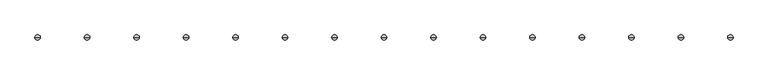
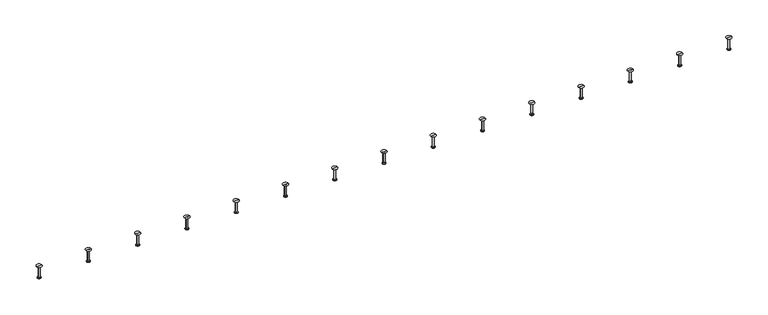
"""IFC4 building model written with IfcOpenShell, lengths in millimetres: fastener geometry, JTA-K JORDAHL® AnchorChannels : JTA-K L=6000 mm."""

from ifc_helpers import new_model, si_unit, frame, origin, place, context, project, spatial, polyline, circle_curve, source, transform, mapped, element, save
from ifc_brep_helpers import plane_surface, cylinder_surface, revolved_surface, advanced_brep


def fastener_3531c618(model_context):
    return source(origin(), model_context, "Body", "AdvancedBrep", [
        advanced_brep(
        [(3991.6666667, 0.0, -17.0), (4005.1666667, 0.0, -17.0), (3978.1666667, 0.0, -17.0), (3983.1666667, 0.0, -80.0), (4000.1666667, 0.0, -80.0), (3991.6666667, 0.0, -80.0), (3983.1666667, 0.0, -78.0), (4000.1666667, 0.0, -78.0), (3987.1666667, 0.0, -75.6905989), (3996.1666667, 0.0, -75.6905989), (3987.1666667, 0.0, -19.5), (3996.1666667, 0.0, -19.5)],
        [
            (0, 1),
            (1, 2, circle_curve(frame((3991.6666667, 0.0, -17.0), z_axis=(0.0, 0.0, 1.0), x_axis=(1.0, 0.0, 0.0)), 13.5)),
            (2, 0),
            (2, 1, circle_curve(frame((3991.6666667, 0.0, -17.0), z_axis=(0.0, 0.0, 1.0), x_axis=(1.0, 0.0, 0.0)), 13.5)),
            (3, 4, circle_curve(frame((3991.6666667, 0.0, -80.0), z_axis=(0.0, 0.0, -1.0), x_axis=(1.0, 0.0, 0.0)), 8.5)),
            (4, 5),
            (5, 3),
            (4, 3, circle_curve(frame((3991.6666667, 0.0, -80.0), z_axis=(0.0, 0.0, -1.0), x_axis=(1.0, 0.0, 0.0)), 8.5)),
            (6, 7, circle_curve(frame((3991.6666667, 0.0, -78.0), z_axis=(0.0, 0.0, -1.0), x_axis=(1.0, 0.0, 0.0)), 8.5)),
            (7, 4),
            (3, 6),
            (7, 6, circle_curve(frame((3991.6666667, 0.0, -78.0), z_axis=(0.0, 0.0, -1.0), x_axis=(1.0, 0.0, 0.0)), 8.5)),
            (8, 9, circle_curve(frame((3991.6666667, 0.0, -75.6905989), z_axis=(0.0, 0.0, -1.0), x_axis=(1.0, 0.0, 0.0)), 4.5)),
            (9, 7),
            (6, 8),
            (9, 8, circle_curve(frame((3991.6666667, 0.0, -75.6905989), z_axis=(0.0, 0.0, -1.0), x_axis=(1.0, 0.0, 0.0)), 4.5)),
            (10, 11, circle_curve(frame((3991.6666667, 0.0, -19.5), z_axis=(0.0, 0.0, -1.0), x_axis=(1.0, 0.0, 0.0)), 4.5)),
            (11, 9),
            (8, 10),
            (11, 10, circle_curve(frame((3991.6666667, 0.0, -19.5), z_axis=(0.0, 0.0, -1.0), x_axis=(1.0, 0.0, 0.0)), 4.5)),
            (1, 11),
            (10, 2),
        ],
        [
            plane_surface(frame((3991.6666667, 0.0, -17.0), z_axis=(0.0, 0.0, 1.0), x_axis=(1.0, 0.0, 0.0))),
            plane_surface(frame((3991.6666667, 0.0, -80.0), z_axis=(0.0, 0.0, -1.0), x_axis=(1.0, 0.0, 0.0))),
            cylinder_surface(frame((3991.6666667, 0.0, 2277.3150031), z_axis=(0.0, 0.0, 1.0), x_axis=(1.0, 0.0, 0.0)), 8.5),
            revolved_surface(polyline([(4000.1666667, 0.0, -78.0), (3996.1666667, 0.0, -75.6905989)]), (3991.6666667, 0.0, 2277.3150031), (0.0, 0.0, 1.0)),
            cylinder_surface(frame((3991.6666667, 0.0, 2277.3150031), z_axis=(0.0, 0.0, 1.0), x_axis=(1.0, 0.0, 0.0)), 4.5),
            revolved_surface(polyline([(3996.1666667, 0.0, -19.5), (4005.1666667, 0.0, -17.0)]), (3991.6666667, 0.0, 2277.3150031), (0.0, 0.0, 1.0)),
        ],
        [
            (0, [[1, 2, 3]]),
            (0, [[-3, 4, -1]]),
            (1, [[5, 6, 7]]),
            (1, [[8, -7, -6]]),
            (2, [[9, 10, -5, 11]]),
            (2, [[12, -11, -8, -10]]),
            (3, [[13, 14, -9, 15]]),
            (3, [[16, -15, -12, -14]]),
            (4, [[17, 18, -13, 19]]),
            (4, [[20, -19, -16, -18]]),
            (5, [[-2, 21, -17, 22]]),
            (5, [[-4, -22, -20, -21]]),
        ],
    ),
        advanced_brep(
        [(3743.75, 0.0, -17.0), (3757.25, 0.0, -17.0), (3730.25, 0.0, -17.0), (3735.25, 0.0, -80.0), (3752.25, 0.0, -80.0), (3743.75, 0.0, -80.0), (3735.25, 0.0, -78.0), (3752.25, 0.0, -78.0), (3739.25, 0.0, -75.6905989), (3748.25, 0.0, -75.6905989), (3739.25, 0.0, -19.5), (3748.25, 0.0, -19.5)],
        [
            (0, 1),
            (1, 2, circle_curve(frame((3743.75, 0.0, -17.0), z_axis=(0.0, 0.0, 1.0), x_axis=(1.0, 0.0, 0.0)), 13.5)),
            (2, 0),
            (2, 1, circle_curve(frame((3743.75, 0.0, -17.0), z_axis=(0.0, 0.0, 1.0), x_axis=(1.0, 0.0, 0.0)), 13.5)),
            (3, 4, circle_curve(frame((3743.75, 0.0, -80.0), z_axis=(0.0, 0.0, -1.0), x_axis=(1.0, 0.0, 0.0)), 8.5)),
            (4, 5),
            (5, 3),
            (4, 3, circle_curve(frame((3743.75, 0.0, -80.0), z_axis=(0.0, 0.0, -1.0), x_axis=(1.0, 0.0, 0.0)), 8.5)),
            (6, 7, circle_curve(frame((3743.75, 0.0, -78.0), z_axis=(0.0, 0.0, -1.0), x_axis=(1.0, 0.0, 0.0)), 8.5)),
            (7, 4),
            (3, 6),
            (7, 6, circle_curve(frame((3743.75, 0.0, -78.0), z_axis=(0.0, 0.0, -1.0), x_axis=(1.0, 0.0, 0.0)), 8.5)),
            (8, 9, circle_curve(frame((3743.75, 0.0, -75.6905989), z_axis=(0.0, 0.0, -1.0), x_axis=(1.0, 0.0, 0.0)), 4.5)),
            (9, 7),
            (6, 8),
            (9, 8, circle_curve(frame((3743.75, 0.0, -75.6905989), z_axis=(0.0, 0.0, -1.0), x_axis=(1.0, 0.0, 0.0)), 4.5)),
            (10, 11, circle_curve(frame((3743.75, 0.0, -19.5), z_axis=(0.0, 0.0, -1.0), x_axis=(1.0, 0.0, 0.0)), 4.5)),
            (11, 9),
            (8, 10),
            (11, 10, circle_curve(frame((3743.75, 0.0, -19.5), z_axis=(0.0, 0.0, -1.0), x_axis=(1.0, 0.0, 0.0)), 4.5)),
            (1, 11),
            (10, 2),
        ],
        [
            plane_surface(frame((3743.75, 0.0, -17.0), z_axis=(0.0, 0.0, 1.0), x_axis=(1.0, 0.0, 0.0))),
            plane_surface(frame((3743.75, 0.0, -80.0), z_axis=(0.0, 0.0, -1.0), x_axis=(1.0, 0.0, 0.0))),
            cylinder_surface(frame((3743.75, 0.0, 2277.3150031), z_axis=(0.0, 0.0, 1.0), x_axis=(1.0, 0.0, 0.0)), 8.5),
            revolved_surface(polyline([(3752.25, 0.0, -78.0), (3748.25, 0.0, -75.6905989)]), (3743.75, 0.0, 2277.3150031), (0.0, 0.0, 1.0)),
            cylinder_surface(frame((3743.75, 0.0, 2277.3150031), z_axis=(0.0, 0.0, 1.0), x_axis=(1.0, 0.0, 0.0)), 4.5),
            revolved_surface(polyline([(3748.25, 0.0, -19.5), (3757.25, 0.0, -17.0)]), (3743.75, 0.0, 2277.3150031), (0.0, 0.0, 1.0)),
        ],
        [
            (0, [[1, 2, 3]]),
            (0, [[-3, 4, -1]]),
            (1, [[5, 6, 7]]),
            (1, [[8, -7, -6]]),
            (2, [[9, 10, -5, 11]]),
            (2, [[12, -11, -8, -10]]),
            (3, [[13, 14, -9, 15]]),
            (3, [[16, -15, -12, -14]]),
            (4, [[17, 18, -13, 19]]),
            (4, [[20, -19, -16, -18]]),
            (5, [[-2, 21, -17, 22]]),
            (5, [[-4, -22, -20, -21]]),
        ],
    ),
        advanced_brep(
        [(3495.8333333, 0.0, -17.0), (3509.3333333, 0.0, -17.0), (3482.3333333, 0.0, -17.0), (3487.3333333, 0.0, -80.0), (3504.3333333, 0.0, -80.0), (3495.8333333, 0.0, -80.0), (3487.3333333, 0.0, -78.0), (3504.3333333, 0.0, -78.0), (3491.3333333, 0.0, -75.6905989), (3500.3333333, 0.0, -75.6905989), (3491.3333333, 0.0, -19.5), (3500.3333333, 0.0, -19.5)],
        [
            (0, 1),
            (1, 2, circle_curve(frame((3495.8333333, 0.0, -17.0), z_axis=(0.0, 0.0, 1.0), x_axis=(1.0, 0.0, 0.0)), 13.5)),
            (2, 0),
            (2, 1, circle_curve(frame((3495.8333333, 0.0, -17.0), z_axis=(0.0, 0.0, 1.0), x_axis=(1.0, 0.0, 0.0)), 13.5)),
            (3, 4, circle_curve(frame((3495.8333333, 0.0, -80.0), z_axis=(0.0, 0.0, -1.0), x_axis=(1.0, 0.0, 0.0)), 8.5)),
            (4, 5),
            (5, 3),
            (4, 3, circle_curve(frame((3495.8333333, 0.0, -80.0), z_axis=(0.0, 0.0, -1.0), x_axis=(1.0, 0.0, 0.0)), 8.5)),
            (6, 7, circle_curve(frame((3495.8333333, 0.0, -78.0), z_axis=(0.0, 0.0, -1.0), x_axis=(1.0, 0.0, 0.0)), 8.5)),
            (7, 4),
            (3, 6),
            (7, 6, circle_curve(frame((3495.8333333, 0.0, -78.0), z_axis=(0.0, 0.0, -1.0), x_axis=(1.0, 0.0, 0.0)), 8.5)),
            (8, 9, circle_curve(frame((3495.8333333, 0.0, -75.6905989), z_axis=(0.0, 0.0, -1.0), x_axis=(1.0, 0.0, 0.0)), 4.5)),
            (9, 7),
            (6, 8),
            (9, 8, circle_curve(frame((3495.8333333, 0.0, -75.6905989), z_axis=(0.0, 0.0, -1.0), x_axis=(1.0, 0.0, 0.0)), 4.5)),
            (10, 11, circle_curve(frame((3495.8333333, 0.0, -19.5), z_axis=(0.0, 0.0, -1.0), x_axis=(1.0, 0.0, 0.0)), 4.5)),
            (11, 9),
            (8, 10),
            (11, 10, circle_curve(frame((3495.8333333, 0.0, -19.5), z_axis=(0.0, 0.0, -1.0), x_axis=(1.0, 0.0, 0.0)), 4.5)),
            (1, 11),
            (10, 2),
        ],
        [
            plane_surface(frame((3495.8333333, 0.0, -17.0), z_axis=(0.0, 0.0, 1.0), x_axis=(1.0, 0.0, 0.0))),
            plane_surface(frame((3495.8333333, 0.0, -80.0), z_axis=(0.0, 0.0, -1.0), x_axis=(1.0, 0.0, 0.0))),
            cylinder_surface(frame((3495.8333333, 0.0, 2277.3150031), z_axis=(0.0, 0.0, 1.0), x_axis=(1.0, 0.0, 0.0)), 8.5),
            revolved_surface(polyline([(3504.3333333, 0.0, -78.0), (3500.3333333, 0.0, -75.6905989)]), (3495.8333333, 0.0, 2277.3150031), (0.0, 0.0, 1.0)),
            cylinder_surface(frame((3495.8333333, 0.0, 2277.3150031), z_axis=(0.0, 0.0, 1.0), x_axis=(1.0, 0.0, 0.0)), 4.5),
            revolved_surface(polyline([(3500.3333333, 0.0, -19.5), (3509.3333333, 0.0, -17.0)]), (3495.8333333, 0.0, 2277.3150031), (0.0, 0.0, 1.0)),
        ],
        [
            (0, [[1, 2, 3]]),
            (0, [[-3, 4, -1]]),
            (1, [[5, 6, 7]]),
            (1, [[8, -7, -6]]),
            (2, [[9, 10, -5, 11]]),
            (2, [[12, -11, -8, -10]]),
            (3, [[13, 14, -9, 15]]),
            (3, [[16, -15, -12, -14]]),
            (4, [[17, 18, -13, 19]]),
            (4, [[20, -19, -16, -18]]),
            (5, [[-2, 21, -17, 22]]),
            (5, [[-4, -22, -20, -21]]),
        ],
    ),
        advanced_brep(
        [(3247.9166667, 0.0, -17.0), (3261.4166667, 0.0, -17.0), (3234.4166667, 0.0, -17.0), (3239.4166667, 0.0, -80.0), (3256.4166667, 0.0, -80.0), (3247.9166667, 0.0, -80.0), (3239.4166667, 0.0, -78.0), (3256.4166667, 0.0, -78.0), (3243.4166667, 0.0, -75.6905989), (3252.4166667, 0.0, -75.6905989), (3243.4166667, 0.0, -19.5), (3252.4166667, 0.0, -19.5)],
        [
            (0, 1),
            (1, 2, circle_curve(frame((3247.9166667, 0.0, -17.0), z_axis=(0.0, 0.0, 1.0), x_axis=(1.0, 0.0, 0.0)), 13.5)),
            (2, 0),
            (2, 1, circle_curve(frame((3247.9166667, 0.0, -17.0), z_axis=(0.0, 0.0, 1.0), x_axis=(1.0, 0.0, 0.0)), 13.5)),
            (3, 4, circle_curve(frame((3247.9166667, 0.0, -80.0), z_axis=(0.0, 0.0, -1.0), x_axis=(1.0, 0.0, 0.0)), 8.5)),
            (4, 5),
            (5, 3),
            (4, 3, circle_curve(frame((3247.9166667, 0.0, -80.0), z_axis=(0.0, 0.0, -1.0), x_axis=(1.0, 0.0, 0.0)), 8.5)),
            (6, 7, circle_curve(frame((3247.9166667, 0.0, -78.0), z_axis=(0.0, 0.0, -1.0), x_axis=(1.0, 0.0, 0.0)), 8.5)),
            (7, 4),
            (3, 6),
            (7, 6, circle_curve(frame((3247.9166667, 0.0, -78.0), z_axis=(0.0, 0.0, -1.0), x_axis=(1.0, 0.0, 0.0)), 8.5)),
            (8, 9, circle_curve(frame((3247.9166667, 0.0, -75.6905989), z_axis=(0.0, 0.0, -1.0), x_axis=(1.0, 0.0, 0.0)), 4.5)),
            (9, 7),
            (6, 8),
            (9, 8, circle_curve(frame((3247.9166667, 0.0, -75.6905989), z_axis=(0.0, 0.0, -1.0), x_axis=(1.0, 0.0, 0.0)), 4.5)),
            (10, 11, circle_curve(frame((3247.9166667, 0.0, -19.5), z_axis=(0.0, 0.0, -1.0), x_axis=(1.0, 0.0, 0.0)), 4.5)),
            (11, 9),
            (8, 10),
            (11, 10, circle_curve(frame((3247.9166667, 0.0, -19.5), z_axis=(0.0, 0.0, -1.0), x_axis=(1.0, 0.0, 0.0)), 4.5)),
            (1, 11),
            (10, 2),
        ],
        [
            plane_surface(frame((3247.9166667, 0.0, -17.0), z_axis=(0.0, 0.0, 1.0), x_axis=(1.0, 0.0, 0.0))),
            plane_surface(frame((3247.9166667, 0.0, -80.0), z_axis=(0.0, 0.0, -1.0), x_axis=(1.0, 0.0, 0.0))),
            cylinder_surface(frame((3247.9166667, 0.0, 2277.3150031), z_axis=(0.0, 0.0, 1.0), x_axis=(1.0, 0.0, 0.0)), 8.5),
            revolved_surface(polyline([(3256.4166667, 0.0, -78.0), (3252.4166667, 0.0, -75.6905989)]), (3247.9166667, 0.0, 2277.3150031), (0.0, 0.0, 1.0)),
            cylinder_surface(frame((3247.9166667, 0.0, 2277.3150031), z_axis=(0.0, 0.0, 1.0), x_axis=(1.0, 0.0, 0.0)), 4.5),
            revolved_surface(polyline([(3252.4166667, 0.0, -19.5), (3261.4166667, 0.0, -17.0)]), (3247.9166667, 0.0, 2277.3150031), (0.0, 0.0, 1.0)),
        ],
        [
            (0, [[1, 2, 3]]),
            (0, [[-3, 4, -1]]),
            (1, [[5, 6, 7]]),
            (1, [[8, -7, -6]]),
            (2, [[9, 10, -5, 11]]),
            (2, [[12, -11, -8, -10]]),
            (3, [[13, 14, -9, 15]]),
            (3, [[16, -15, -12, -14]]),
            (4, [[17, 18, -13, 19]]),
            (4, [[20, -19, -16, -18]]),
            (5, [[-2, 21, -17, 22]]),
            (5, [[-4, -22, -20, -21]]),
        ],
    ),
        advanced_brep(
        [(3000.0, 0.0, -17.0), (3013.5, 0.0, -17.0), (2986.5, 0.0, -17.0), (2991.5, 0.0, -80.0), (3008.5, 0.0, -80.0), (3000.0, 0.0, -80.0), (2991.5, 0.0, -78.0), (3008.5, 0.0, -78.0), (2995.5, 0.0, -75.6905989), (3004.5, 0.0, -75.6905989), (2995.5, 0.0, -19.5), (3004.5, 0.0, -19.5)],
        [
            (0, 1),
            (1, 2, circle_curve(frame((3000.0, 0.0, -17.0), z_axis=(0.0, 0.0, 1.0), x_axis=(1.0, 0.0, 0.0)), 13.5)),
            (2, 0),
            (2, 1, circle_curve(frame((3000.0, 0.0, -17.0), z_axis=(0.0, 0.0, 1.0), x_axis=(1.0, 0.0, 0.0)), 13.5)),
            (3, 4, circle_curve(frame((3000.0, 0.0, -80.0), z_axis=(0.0, 0.0, -1.0), x_axis=(1.0, 0.0, 0.0)), 8.5)),
            (4, 5),
            (5, 3),
            (4, 3, circle_curve(frame((3000.0, 0.0, -80.0), z_axis=(0.0, 0.0, -1.0), x_axis=(1.0, 0.0, 0.0)), 8.5)),
            (6, 7, circle_curve(frame((3000.0, 0.0, -78.0), z_axis=(0.0, 0.0, -1.0), x_axis=(1.0, 0.0, 0.0)), 8.5)),
            (7, 4),
            (3, 6),
            (7, 6, circle_curve(frame((3000.0, 0.0, -78.0), z_axis=(0.0, 0.0, -1.0), x_axis=(1.0, 0.0, 0.0)), 8.5)),
            (8, 9, circle_curve(frame((3000.0, 0.0, -75.6905989), z_axis=(0.0, 0.0, -1.0), x_axis=(1.0, 0.0, 0.0)), 4.5)),
            (9, 7),
            (6, 8),
            (9, 8, circle_curve(frame((3000.0, 0.0, -75.6905989), z_axis=(0.0, 0.0, -1.0), x_axis=(1.0, 0.0, 0.0)), 4.5)),
            (10, 11, circle_curve(frame((3000.0, 0.0, -19.5), z_axis=(0.0, 0.0, -1.0), x_axis=(1.0, 0.0, 0.0)), 4.5)),
            (11, 9),
            (8, 10),
            (11, 10, circle_curve(frame((3000.0, 0.0, -19.5), z_axis=(0.0, 0.0, -1.0), x_axis=(1.0, 0.0, 0.0)), 4.5)),
            (1, 11),
            (10, 2),
        ],
        [
            plane_surface(frame((3000.0, 0.0, -17.0), z_axis=(0.0, 0.0, 1.0), x_axis=(1.0, 0.0, 0.0))),
            plane_surface(frame((3000.0, 0.0, -80.0), z_axis=(0.0, 0.0, -1.0), x_axis=(1.0, 0.0, 0.0))),
            cylinder_surface(frame((3000.0, 0.0, 2277.3150031), z_axis=(0.0, 0.0, 1.0), x_axis=(1.0, 0.0, 0.0)), 8.5),
            revolved_surface(polyline([(3008.5, 0.0, -78.0), (3004.5, 0.0, -75.6905989)]), (3000.0, 0.0, 2277.3150031), (0.0, 0.0, 1.0)),
            cylinder_surface(frame((3000.0, 0.0, 2277.3150031), z_axis=(0.0, 0.0, 1.0), x_axis=(1.0, 0.0, 0.0)), 4.5),
            revolved_surface(polyline([(3004.5, 0.0, -19.5), (3013.5, 0.0, -17.0)]), (3000.0, 0.0, 2277.3150031), (0.0, 0.0, 1.0)),
        ],
        [
            (0, [[1, 2, 3]]),
            (0, [[-3, 4, -1]]),
            (1, [[5, 6, 7]]),
            (1, [[8, -7, -6]]),
            (2, [[9, 10, -5, 11]]),
            (2, [[12, -11, -8, -10]]),
            (3, [[13, 14, -9, 15]]),
            (3, [[16, -15, -12, -14]]),
            (4, [[17, 18, -13, 19]]),
            (4, [[20, -19, -16, -18]]),
            (5, [[-2, 21, -17, 22]]),
            (5, [[-4, -22, -20, -21]]),
        ],
    ),
        advanced_brep(
        [(2752.0833333, 0.0, -17.0), (2765.5833333, 0.0, -17.0), (2738.5833333, 0.0, -17.0), (2743.5833333, 0.0, -80.0), (2760.5833333, 0.0, -80.0), (2752.0833333, 0.0, -80.0), (2743.5833333, 0.0, -78.0), (2760.5833333, 0.0, -78.0), (2747.5833333, 0.0, -75.6905989), (2756.5833333, 0.0, -75.6905989), (2747.5833333, 0.0, -19.5), (2756.5833333, 0.0, -19.5)],
        [
            (0, 1),
            (1, 2, circle_curve(frame((2752.0833333, 0.0, -17.0), z_axis=(0.0, 0.0, 1.0), x_axis=(1.0, 0.0, 0.0)), 13.5)),
            (2, 0),
            (2, 1, circle_curve(frame((2752.0833333, 0.0, -17.0), z_axis=(0.0, 0.0, 1.0), x_axis=(1.0, 0.0, 0.0)), 13.5)),
            (3, 4, circle_curve(frame((2752.0833333, 0.0, -80.0), z_axis=(0.0, 0.0, -1.0), x_axis=(1.0, 0.0, 0.0)), 8.5)),
            (4, 5),
            (5, 3),
            (4, 3, circle_curve(frame((2752.0833333, 0.0, -80.0), z_axis=(0.0, 0.0, -1.0), x_axis=(1.0, 0.0, 0.0)), 8.5)),
            (6, 7, circle_curve(frame((2752.0833333, 0.0, -78.0), z_axis=(0.0, 0.0, -1.0), x_axis=(1.0, 0.0, 0.0)), 8.5)),
            (7, 4),
            (3, 6),
            (7, 6, circle_curve(frame((2752.0833333, 0.0, -78.0), z_axis=(0.0, 0.0, -1.0), x_axis=(1.0, 0.0, 0.0)), 8.5)),
            (8, 9, circle_curve(frame((2752.0833333, 0.0, -75.6905989), z_axis=(0.0, 0.0, -1.0), x_axis=(1.0, 0.0, 0.0)), 4.5)),
            (9, 7),
            (6, 8),
            (9, 8, circle_curve(frame((2752.0833333, 0.0, -75.6905989), z_axis=(0.0, 0.0, -1.0), x_axis=(1.0, 0.0, 0.0)), 4.5)),
            (10, 11, circle_curve(frame((2752.0833333, 0.0, -19.5), z_axis=(0.0, 0.0, -1.0), x_axis=(1.0, 0.0, 0.0)), 4.5)),
            (11, 9),
            (8, 10),
            (11, 10, circle_curve(frame((2752.0833333, 0.0, -19.5), z_axis=(0.0, 0.0, -1.0), x_axis=(1.0, 0.0, 0.0)), 4.5)),
            (1, 11),
            (10, 2),
        ],
        [
            plane_surface(frame((2752.0833333, 0.0, -17.0), z_axis=(0.0, 0.0, 1.0), x_axis=(1.0, 0.0, 0.0))),
            plane_surface(frame((2752.0833333, 0.0, -80.0), z_axis=(0.0, 0.0, -1.0), x_axis=(1.0, 0.0, 0.0))),
            cylinder_surface(frame((2752.0833333, 0.0, 2277.3150031), z_axis=(0.0, 0.0, 1.0), x_axis=(1.0, 0.0, 0.0)), 8.5),
            revolved_surface(polyline([(2760.5833333, 0.0, -78.0), (2756.5833333, 0.0, -75.6905989)]), (2752.0833333, 0.0, 2277.3150031), (0.0, 0.0, 1.0)),
            cylinder_surface(frame((2752.0833333, 0.0, 2277.3150031), z_axis=(0.0, 0.0, 1.0), x_axis=(1.0, 0.0, 0.0)), 4.5),
            revolved_surface(polyline([(2756.5833333, 0.0, -19.5), (2765.5833333, 0.0, -17.0)]), (2752.0833333, 0.0, 2277.3150031), (0.0, 0.0, 1.0)),
        ],
        [
            (0, [[1, 2, 3]]),
            (0, [[-3, 4, -1]]),
            (1, [[5, 6, 7]]),
            (1, [[8, -7, -6]]),
            (2, [[9, 10, -5, 11]]),
            (2, [[12, -11, -8, -10]]),
            (3, [[13, 14, -9, 15]]),
            (3, [[16, -15, -12, -14]]),
            (4, [[17, 18, -13, 19]]),
            (4, [[20, -19, -16, -18]]),
            (5, [[-2, 21, -17, 22]]),
            (5, [[-4, -22, -20, -21]]),
        ],
    ),
        advanced_brep(
        [(2504.1666667, 0.0, -17.0), (2517.6666667, 0.0, -17.0), (2490.6666667, 0.0, -17.0), (2495.6666667, 0.0, -80.0), (2512.6666667, 0.0, -80.0), (2504.1666667, 0.0, -80.0), (2495.6666667, 0.0, -78.0), (2512.6666667, 0.0, -78.0), (2499.6666667, 0.0, -75.6905989), (2508.6666667, 0.0, -75.6905989), (2499.6666667, 0.0, -19.5), (2508.6666667, 0.0, -19.5)],
        [
            (0, 1),
            (1, 2, circle_curve(frame((2504.1666667, 0.0, -17.0), z_axis=(0.0, 0.0, 1.0), x_axis=(1.0, 0.0, 0.0)), 13.5)),
            (2, 0),
            (2, 1, circle_curve(frame((2504.1666667, 0.0, -17.0), z_axis=(0.0, 0.0, 1.0), x_axis=(1.0, 0.0, 0.0)), 13.5)),
            (3, 4, circle_curve(frame((2504.1666667, 0.0, -80.0), z_axis=(0.0, 0.0, -1.0), x_axis=(1.0, 0.0, 0.0)), 8.5)),
            (4, 5),
            (5, 3),
            (4, 3, circle_curve(frame((2504.1666667, 0.0, -80.0), z_axis=(0.0, 0.0, -1.0), x_axis=(1.0, 0.0, 0.0)), 8.5)),
            (6, 7, circle_curve(frame((2504.1666667, 0.0, -78.0), z_axis=(0.0, 0.0, -1.0), x_axis=(1.0, 0.0, 0.0)), 8.5)),
            (7, 4),
            (3, 6),
            (7, 6, circle_curve(frame((2504.1666667, 0.0, -78.0), z_axis=(0.0, 0.0, -1.0), x_axis=(1.0, 0.0, 0.0)), 8.5)),
            (8, 9, circle_curve(frame((2504.1666667, 0.0, -75.6905989), z_axis=(0.0, 0.0, -1.0), x_axis=(1.0, 0.0, 0.0)), 4.5)),
            (9, 7),
            (6, 8),
            (9, 8, circle_curve(frame((2504.1666667, 0.0, -75.6905989), z_axis=(0.0, 0.0, -1.0), x_axis=(1.0, 0.0, 0.0)), 4.5)),
            (10, 11, circle_curve(frame((2504.1666667, 0.0, -19.5), z_axis=(0.0, 0.0, -1.0), x_axis=(1.0, 0.0, 0.0)), 4.5)),
            (11, 9),
            (8, 10),
            (11, 10, circle_curve(frame((2504.1666667, 0.0, -19.5), z_axis=(0.0, 0.0, -1.0), x_axis=(1.0, 0.0, 0.0)), 4.5)),
            (1, 11),
            (10, 2),
        ],
        [
            plane_surface(frame((2504.1666667, 0.0, -17.0), z_axis=(0.0, 0.0, 1.0), x_axis=(1.0, 0.0, 0.0))),
            plane_surface(frame((2504.1666667, 0.0, -80.0), z_axis=(0.0, 0.0, -1.0), x_axis=(1.0, 0.0, 0.0))),
            cylinder_surface(frame((2504.1666667, 0.0, 2277.3150031), z_axis=(0.0, 0.0, 1.0), x_axis=(1.0, 0.0, 0.0)), 8.5),
            revolved_surface(polyline([(2512.6666667, 0.0, -78.0), (2508.6666667, 0.0, -75.6905989)]), (2504.1666667, 0.0, 2277.3150031), (0.0, 0.0, 1.0)),
            cylinder_surface(frame((2504.1666667, 0.0, 2277.3150031), z_axis=(0.0, 0.0, 1.0), x_axis=(1.0, 0.0, 0.0)), 4.5),
            revolved_surface(polyline([(2508.6666667, 0.0, -19.5), (2517.6666667, 0.0, -17.0)]), (2504.1666667, 0.0, 2277.3150031), (0.0, 0.0, 1.0)),
        ],
        [
            (0, [[1, 2, 3]]),
            (0, [[-3, 4, -1]]),
            (1, [[5, 6, 7]]),
            (1, [[8, -7, -6]]),
            (2, [[9, 10, -5, 11]]),
            (2, [[12, -11, -8, -10]]),
            (3, [[13, 14, -9, 15]]),
            (3, [[16, -15, -12, -14]]),
            (4, [[17, 18, -13, 19]]),
            (4, [[20, -19, -16, -18]]),
            (5, [[-2, 21, -17, 22]]),
            (5, [[-4, -22, -20, -21]]),
        ],
    ),
        advanced_brep(
        [(2256.25, 0.0, -17.0), (2269.75, 0.0, -17.0), (2242.75, 0.0, -17.0), (2247.75, 0.0, -80.0), (2264.75, 0.0, -80.0), (2256.25, 0.0, -80.0), (2247.75, 0.0, -78.0), (2264.75, 0.0, -78.0), (2251.75, 0.0, -75.6905989), (2260.75, 0.0, -75.6905989), (2251.75, 0.0, -19.5), (2260.75, 0.0, -19.5)],
        [
            (0, 1),
            (1, 2, circle_curve(frame((2256.25, 0.0, -17.0), z_axis=(0.0, 0.0, 1.0), x_axis=(1.0, 0.0, 0.0)), 13.5)),
            (2, 0),
            (2, 1, circle_curve(frame((2256.25, 0.0, -17.0), z_axis=(0.0, 0.0, 1.0), x_axis=(1.0, 0.0, 0.0)), 13.5)),
            (3, 4, circle_curve(frame((2256.25, 0.0, -80.0), z_axis=(0.0, 0.0, -1.0), x_axis=(1.0, 0.0, 0.0)), 8.5)),
            (4, 5),
            (5, 3),
            (4, 3, circle_curve(frame((2256.25, 0.0, -80.0), z_axis=(0.0, 0.0, -1.0), x_axis=(1.0, 0.0, 0.0)), 8.5)),
            (6, 7, circle_curve(frame((2256.25, 0.0, -78.0), z_axis=(0.0, 0.0, -1.0), x_axis=(1.0, 0.0, 0.0)), 8.5)),
            (7, 4),
            (3, 6),
            (7, 6, circle_curve(frame((2256.25, 0.0, -78.0), z_axis=(0.0, 0.0, -1.0), x_axis=(1.0, 0.0, 0.0)), 8.5)),
            (8, 9, circle_curve(frame((2256.25, 0.0, -75.6905989), z_axis=(0.0, 0.0, -1.0), x_axis=(1.0, 0.0, 0.0)), 4.5)),
            (9, 7),
            (6, 8),
            (9, 8, circle_curve(frame((2256.25, 0.0, -75.6905989), z_axis=(0.0, 0.0, -1.0), x_axis=(1.0, 0.0, 0.0)), 4.5)),
            (10, 11, circle_curve(frame((2256.25, 0.0, -19.5), z_axis=(0.0, 0.0, -1.0), x_axis=(1.0, 0.0, 0.0)), 4.5)),
            (11, 9),
            (8, 10),
            (11, 10, circle_curve(frame((2256.25, 0.0, -19.5), z_axis=(0.0, 0.0, -1.0), x_axis=(1.0, 0.0, 0.0)), 4.5)),
            (1, 11),
            (10, 2),
        ],
        [
            plane_surface(frame((2256.25, 0.0, -17.0), z_axis=(0.0, 0.0, 1.0), x_axis=(1.0, 0.0, 0.0))),
            plane_surface(frame((2256.25, 0.0, -80.0), z_axis=(0.0, 0.0, -1.0), x_axis=(1.0, 0.0, 0.0))),
            cylinder_surface(frame((2256.25, 0.0, 2277.3150031), z_axis=(0.0, 0.0, 1.0), x_axis=(1.0, 0.0, 0.0)), 8.5),
            revolved_surface(polyline([(2264.75, 0.0, -78.0), (2260.75, 0.0, -75.6905989)]), (2256.25, 0.0, 2277.3150031), (0.0, 0.0, 1.0)),
            cylinder_surface(frame((2256.25, 0.0, 2277.3150031), z_axis=(0.0, 0.0, 1.0), x_axis=(1.0, 0.0, 0.0)), 4.5),
            revolved_surface(polyline([(2260.75, 0.0, -19.5), (2269.75, 0.0, -17.0)]), (2256.25, 0.0, 2277.3150031), (0.0, 0.0, 1.0)),
        ],
        [
            (0, [[1, 2, 3]]),
            (0, [[-3, 4, -1]]),
            (1, [[5, 6, 7]]),
            (1, [[8, -7, -6]]),
            (2, [[9, 10, -5, 11]]),
            (2, [[12, -11, -8, -10]]),
            (3, [[13, 14, -9, 15]]),
            (3, [[16, -15, -12, -14]]),
            (4, [[17, 18, -13, 19]]),
            (4, [[20, -19, -16, -18]]),
            (5, [[-2, 21, -17, 22]]),
            (5, [[-4, -22, -20, -21]]),
        ],
    ),
        advanced_brep(
        [(2008.3333333, 0.0, -17.0), (2021.8333333, 0.0, -17.0), (1994.8333333, 0.0, -17.0), (1999.8333333, 0.0, -80.0), (2016.8333333, 0.0, -80.0), (2008.3333333, 0.0, -80.0), (1999.8333333, 0.0, -78.0), (2016.8333333, 0.0, -78.0), (2003.8333333, 0.0, -75.6905989), (2012.8333333, 0.0, -75.6905989), (2003.8333333, 0.0, -19.5), (2012.8333333, 0.0, -19.5)],
        [
            (0, 1),
            (1, 2, circle_curve(frame((2008.3333333, 0.0, -17.0), z_axis=(0.0, 0.0, 1.0), x_axis=(1.0, 0.0, 0.0)), 13.5)),
            (2, 0),
            (2, 1, circle_curve(frame((2008.3333333, 0.0, -17.0), z_axis=(0.0, 0.0, 1.0), x_axis=(1.0, 0.0, 0.0)), 13.5)),
            (3, 4, circle_curve(frame((2008.3333333, 0.0, -80.0), z_axis=(0.0, 0.0, -1.0), x_axis=(1.0, 0.0, 0.0)), 8.5)),
            (4, 5),
            (5, 3),
            (4, 3, circle_curve(frame((2008.3333333, 0.0, -80.0), z_axis=(0.0, 0.0, -1.0), x_axis=(1.0, 0.0, 0.0)), 8.5)),
            (6, 7, circle_curve(frame((2008.3333333, 0.0, -78.0), z_axis=(0.0, 0.0, -1.0), x_axis=(1.0, 0.0, 0.0)), 8.5)),
            (7, 4),
            (3, 6),
            (7, 6, circle_curve(frame((2008.3333333, 0.0, -78.0), z_axis=(0.0, 0.0, -1.0), x_axis=(1.0, 0.0, 0.0)), 8.5)),
            (8, 9, circle_curve(frame((2008.3333333, 0.0, -75.6905989), z_axis=(0.0, 0.0, -1.0), x_axis=(1.0, 0.0, 0.0)), 4.5)),
            (9, 7),
            (6, 8),
            (9, 8, circle_curve(frame((2008.3333333, 0.0, -75.6905989), z_axis=(0.0, 0.0, -1.0), x_axis=(1.0, 0.0, 0.0)), 4.5)),
            (10, 11, circle_curve(frame((2008.3333333, 0.0, -19.5), z_axis=(0.0, 0.0, -1.0), x_axis=(1.0, 0.0, 0.0)), 4.5)),
            (11, 9),
            (8, 10),
            (11, 10, circle_curve(frame((2008.3333333, 0.0, -19.5), z_axis=(0.0, 0.0, -1.0), x_axis=(1.0, 0.0, 0.0)), 4.5)),
            (1, 11),
            (10, 2),
        ],
        [
            plane_surface(frame((2008.3333333, 0.0, -17.0), z_axis=(0.0, 0.0, 1.0), x_axis=(1.0, 0.0, 0.0))),
            plane_surface(frame((2008.3333333, 0.0, -80.0), z_axis=(0.0, 0.0, -1.0), x_axis=(1.0, 0.0, 0.0))),
            cylinder_surface(frame((2008.3333333, 0.0, 2277.3150031), z_axis=(0.0, 0.0, 1.0), x_axis=(1.0, 0.0, 0.0)), 8.5),
            revolved_surface(polyline([(2016.8333333, 0.0, -78.0), (2012.8333333, 0.0, -75.6905989)]), (2008.3333333, 0.0, 2277.3150031), (0.0, 0.0, 1.0)),
            cylinder_surface(frame((2008.3333333, 0.0, 2277.3150031), z_axis=(0.0, 0.0, 1.0), x_axis=(1.0, 0.0, 0.0)), 4.5),
            revolved_surface(polyline([(2012.8333333, 0.0, -19.5), (2021.8333333, 0.0, -17.0)]), (2008.3333333, 0.0, 2277.3150031), (0.0, 0.0, 1.0)),
        ],
        [
            (0, [[1, 2, 3]]),
            (0, [[-3, 4, -1]]),
            (1, [[5, 6, 7]]),
            (1, [[8, -7, -6]]),
            (2, [[9, 10, -5, 11]]),
            (2, [[12, -11, -8, -10]]),
            (3, [[13, 14, -9, 15]]),
            (3, [[16, -15, -12, -14]]),
            (4, [[17, 18, -13, 19]]),
            (4, [[20, -19, -16, -18]]),
            (5, [[-2, 21, -17, 22]]),
            (5, [[-4, -22, -20, -21]]),
        ],
    ),
        advanced_brep(
        [(1760.4166667, 0.0, -17.0), (1773.9166667, 0.0, -17.0), (1746.9166667, 0.0, -17.0), (1751.9166667, 0.0, -80.0), (1768.9166667, 0.0, -80.0), (1760.4166667, 0.0, -80.0), (1751.9166667, 0.0, -78.0), (1768.9166667, 0.0, -78.0), (1755.9166667, 0.0, -75.6905989), (1764.9166667, 0.0, -75.6905989), (1755.9166667, 0.0, -19.5), (1764.9166667, 0.0, -19.5)],
        [
            (0, 1),
            (1, 2, circle_curve(frame((1760.4166667, 0.0, -17.0), z_axis=(0.0, 0.0, 1.0), x_axis=(1.0, 0.0, 0.0)), 13.5)),
            (2, 0),
            (2, 1, circle_curve(frame((1760.4166667, 0.0, -17.0), z_axis=(0.0, 0.0, 1.0), x_axis=(1.0, 0.0, 0.0)), 13.5)),
            (3, 4, circle_curve(frame((1760.4166667, 0.0, -80.0), z_axis=(0.0, 0.0, -1.0), x_axis=(1.0, 0.0, 0.0)), 8.5)),
            (4, 5),
            (5, 3),
            (4, 3, circle_curve(frame((1760.4166667, 0.0, -80.0), z_axis=(0.0, 0.0, -1.0), x_axis=(1.0, 0.0, 0.0)), 8.5)),
            (6, 7, circle_curve(frame((1760.4166667, 0.0, -78.0), z_axis=(0.0, 0.0, -1.0), x_axis=(1.0, 0.0, 0.0)), 8.5)),
            (7, 4),
            (3, 6),
            (7, 6, circle_curve(frame((1760.4166667, 0.0, -78.0), z_axis=(0.0, 0.0, -1.0), x_axis=(1.0, 0.0, 0.0)), 8.5)),
            (8, 9, circle_curve(frame((1760.4166667, 0.0, -75.6905989), z_axis=(0.0, 0.0, -1.0), x_axis=(1.0, 0.0, 0.0)), 4.5)),
            (9, 7),
            (6, 8),
            (9, 8, circle_curve(frame((1760.4166667, 0.0, -75.6905989), z_axis=(0.0, 0.0, -1.0), x_axis=(1.0, 0.0, 0.0)), 4.5)),
            (10, 11, circle_curve(frame((1760.4166667, 0.0, -19.5), z_axis=(0.0, 0.0, -1.0), x_axis=(1.0, 0.0, 0.0)), 4.5)),
            (11, 9),
            (8, 10),
            (11, 10, circle_curve(frame((1760.4166667, 0.0, -19.5), z_axis=(0.0, 0.0, -1.0), x_axis=(1.0, 0.0, 0.0)), 4.5)),
            (1, 11),
            (10, 2),
        ],
        [
            plane_surface(frame((1760.4166667, 0.0, -17.0), z_axis=(0.0, 0.0, 1.0), x_axis=(1.0, 0.0, 0.0))),
            plane_surface(frame((1760.4166667, 0.0, -80.0), z_axis=(0.0, 0.0, -1.0), x_axis=(1.0, 0.0, 0.0))),
            cylinder_surface(frame((1760.4166667, 0.0, 2277.3150031), z_axis=(0.0, 0.0, 1.0), x_axis=(1.0, 0.0, 0.0)), 8.5),
            revolved_surface(polyline([(1768.9166667, 0.0, -78.0), (1764.9166667, 0.0, -75.6905989)]), (1760.4166667, 0.0, 2277.3150031), (0.0, 0.0, 1.0)),
            cylinder_surface(frame((1760.4166667, 0.0, 2277.3150031), z_axis=(0.0, 0.0, 1.0), x_axis=(1.0, 0.0, 0.0)), 4.5),
            revolved_surface(polyline([(1764.9166667, 0.0, -19.5), (1773.9166667, 0.0, -17.0)]), (1760.4166667, 0.0, 2277.3150031), (0.0, 0.0, 1.0)),
        ],
        [
            (0, [[1, 2, 3]]),
            (0, [[-3, 4, -1]]),
            (1, [[5, 6, 7]]),
            (1, [[8, -7, -6]]),
            (2, [[9, 10, -5, 11]]),
            (2, [[12, -11, -8, -10]]),
            (3, [[13, 14, -9, 15]]),
            (3, [[16, -15, -12, -14]]),
            (4, [[17, 18, -13, 19]]),
            (4, [[20, -19, -16, -18]]),
            (5, [[-2, 21, -17, 22]]),
            (5, [[-4, -22, -20, -21]]),
        ],
    ),
        advanced_brep(
        [(1512.5, 0.0, -17.0), (1526.0, 0.0, -17.0), (1499.0, 0.0, -17.0), (1504.0, 0.0, -80.0), (1521.0, 0.0, -80.0), (1512.5, 0.0, -80.0), (1504.0, 0.0, -78.0), (1521.0, 0.0, -78.0), (1508.0, 0.0, -75.6905989), (1517.0, 0.0, -75.6905989), (1508.0, 0.0, -19.5), (1517.0, 0.0, -19.5)],
        [
            (0, 1),
            (1, 2, circle_curve(frame((1512.5, 0.0, -17.0), z_axis=(0.0, 0.0, 1.0), x_axis=(1.0, 0.0, 0.0)), 13.5)),
            (2, 0),
            (2, 1, circle_curve(frame((1512.5, 0.0, -17.0), z_axis=(0.0, 0.0, 1.0), x_axis=(1.0, 0.0, 0.0)), 13.5)),
            (3, 4, circle_curve(frame((1512.5, 0.0, -80.0), z_axis=(0.0, 0.0, -1.0), x_axis=(1.0, 0.0, 0.0)), 8.5)),
            (4, 5),
            (5, 3),
            (4, 3, circle_curve(frame((1512.5, 0.0, -80.0), z_axis=(0.0, 0.0, -1.0), x_axis=(1.0, 0.0, 0.0)), 8.5)),
            (6, 7, circle_curve(frame((1512.5, 0.0, -78.0), z_axis=(0.0, 0.0, -1.0), x_axis=(1.0, 0.0, 0.0)), 8.5)),
            (7, 4),
            (3, 6),
            (7, 6, circle_curve(frame((1512.5, 0.0, -78.0), z_axis=(0.0, 0.0, -1.0), x_axis=(1.0, 0.0, 0.0)), 8.5)),
            (8, 9, circle_curve(frame((1512.5, 0.0, -75.6905989), z_axis=(0.0, 0.0, -1.0), x_axis=(1.0, 0.0, 0.0)), 4.5)),
            (9, 7),
            (6, 8),
            (9, 8, circle_curve(frame((1512.5, 0.0, -75.6905989), z_axis=(0.0, 0.0, -1.0), x_axis=(1.0, 0.0, 0.0)), 4.5)),
            (10, 11, circle_curve(frame((1512.5, 0.0, -19.5), z_axis=(0.0, 0.0, -1.0), x_axis=(1.0, 0.0, 0.0)), 4.5)),
            (11, 9),
            (8, 10),
            (11, 10, circle_curve(frame((1512.5, 0.0, -19.5), z_axis=(0.0, 0.0, -1.0), x_axis=(1.0, 0.0, 0.0)), 4.5)),
            (1, 11),
            (10, 2),
        ],
        [
            plane_surface(frame((1512.5, 0.0, -17.0), z_axis=(0.0, 0.0, 1.0), x_axis=(1.0, 0.0, 0.0))),
            plane_surface(frame((1512.5, 0.0, -80.0), z_axis=(0.0, 0.0, -1.0), x_axis=(1.0, 0.0, 0.0))),
            cylinder_surface(frame((1512.5, 0.0, 2277.3150031), z_axis=(0.0, 0.0, 1.0), x_axis=(1.0, 0.0, 0.0)), 8.5),
            revolved_surface(polyline([(1521.0, 0.0, -78.0), (1517.0, 0.0, -75.6905989)]), (1512.5, 0.0, 2277.3150031), (0.0, 0.0, 1.0)),
            cylinder_surface(frame((1512.5, 0.0, 2277.3150031), z_axis=(0.0, 0.0, 1.0), x_axis=(1.0, 0.0, 0.0)), 4.5),
            revolved_surface(polyline([(1517.0, 0.0, -19.5), (1526.0, 0.0, -17.0)]), (1512.5, 0.0, 2277.3150031), (0.0, 0.0, 1.0)),
        ],
        [
            (0, [[1, 2, 3]]),
            (0, [[-3, 4, -1]]),
            (1, [[5, 6, 7]]),
            (1, [[8, -7, -6]]),
            (2, [[9, 10, -5, 11]]),
            (2, [[12, -11, -8, -10]]),
            (3, [[13, 14, -9, 15]]),
            (3, [[16, -15, -12, -14]]),
            (4, [[17, 18, -13, 19]]),
            (4, [[20, -19, -16, -18]]),
            (5, [[-2, 21, -17, 22]]),
            (5, [[-4, -22, -20, -21]]),
        ],
    ),
        advanced_brep(
        [(1264.5833333, 0.0, -17.0), (1278.0833333, 0.0, -17.0), (1251.0833333, 0.0, -17.0), (1256.0833333, 0.0, -80.0), (1273.0833333, 0.0, -80.0), (1264.5833333, 0.0, -80.0), (1256.0833333, 0.0, -78.0), (1273.0833333, 0.0, -78.0), (1260.0833333, 0.0, -75.6905989), (1269.0833333, 0.0, -75.6905989), (1260.0833333, 0.0, -19.5), (1269.0833333, 0.0, -19.5)],
        [
            (0, 1),
            (1, 2, circle_curve(frame((1264.5833333, 0.0, -17.0), z_axis=(0.0, 0.0, 1.0), x_axis=(1.0, 0.0, 0.0)), 13.5)),
            (2, 0),
            (2, 1, circle_curve(frame((1264.5833333, 0.0, -17.0), z_axis=(0.0, 0.0, 1.0), x_axis=(1.0, 0.0, 0.0)), 13.5)),
            (3, 4, circle_curve(frame((1264.5833333, 0.0, -80.0), z_axis=(0.0, 0.0, -1.0), x_axis=(1.0, 0.0, 0.0)), 8.5)),
            (4, 5),
            (5, 3),
            (4, 3, circle_curve(frame((1264.5833333, 0.0, -80.0), z_axis=(0.0, 0.0, -1.0), x_axis=(1.0, 0.0, 0.0)), 8.5)),
            (6, 7, circle_curve(frame((1264.5833333, 0.0, -78.0), z_axis=(0.0, 0.0, -1.0), x_axis=(1.0, 0.0, 0.0)), 8.5)),
            (7, 4),
            (3, 6),
            (7, 6, circle_curve(frame((1264.5833333, 0.0, -78.0), z_axis=(0.0, 0.0, -1.0), x_axis=(1.0, 0.0, 0.0)), 8.5)),
            (8, 9, circle_curve(frame((1264.5833333, 0.0, -75.6905989), z_axis=(0.0, 0.0, -1.0), x_axis=(1.0, 0.0, 0.0)), 4.5)),
            (9, 7),
            (6, 8),
            (9, 8, circle_curve(frame((1264.5833333, 0.0, -75.6905989), z_axis=(0.0, 0.0, -1.0), x_axis=(1.0, 0.0, 0.0)), 4.5)),
            (10, 11, circle_curve(frame((1264.5833333, 0.0, -19.5), z_axis=(0.0, 0.0, -1.0), x_axis=(1.0, 0.0, 0.0)), 4.5)),
            (11, 9),
            (8, 10),
            (11, 10, circle_curve(frame((1264.5833333, 0.0, -19.5), z_axis=(0.0, 0.0, -1.0), x_axis=(1.0, 0.0, 0.0)), 4.5)),
            (1, 11),
            (10, 2),
        ],
        [
            plane_surface(frame((1264.5833333, 0.0, -17.0), z_axis=(0.0, 0.0, 1.0), x_axis=(1.0, 0.0, 0.0))),
            plane_surface(frame((1264.5833333, 0.0, -80.0), z_axis=(0.0, 0.0, -1.0), x_axis=(1.0, 0.0, 0.0))),
            cylinder_surface(frame((1264.5833333, 0.0, 2277.3150031), z_axis=(0.0, 0.0, 1.0), x_axis=(1.0, 0.0, 0.0)), 8.5),
            revolved_surface(polyline([(1273.0833333, 0.0, -78.0), (1269.0833333, 0.0, -75.6905989)]), (1264.5833333, 0.0, 2277.3150031), (0.0, 0.0, 1.0)),
            cylinder_surface(frame((1264.5833333, 0.0, 2277.3150031), z_axis=(0.0, 0.0, 1.0), x_axis=(1.0, 0.0, 0.0)), 4.5),
            revolved_surface(polyline([(1269.0833333, 0.0, -19.5), (1278.0833333, 0.0, -17.0)]), (1264.5833333, 0.0, 2277.3150031), (0.0, 0.0, 1.0)),
        ],
        [
            (0, [[1, 2, 3]]),
            (0, [[-3, 4, -1]]),
            (1, [[5, 6, 7]]),
            (1, [[8, -7, -6]]),
            (2, [[9, 10, -5, 11]]),
            (2, [[12, -11, -8, -10]]),
            (3, [[13, 14, -9, 15]]),
            (3, [[16, -15, -12, -14]]),
            (4, [[17, 18, -13, 19]]),
            (4, [[20, -19, -16, -18]]),
            (5, [[-2, 21, -17, 22]]),
            (5, [[-4, -22, -20, -21]]),
        ],
    ),
        advanced_brep(
        [(1016.6666667, 0.0, -17.0), (1030.1666667, 0.0, -17.0), (1003.1666667, 0.0, -17.0), (1008.1666667, 0.0, -80.0), (1025.1666667, 0.0, -80.0), (1016.6666667, 0.0, -80.0), (1008.1666667, 0.0, -78.0), (1025.1666667, 0.0, -78.0), (1012.1666667, 0.0, -75.6905989), (1021.1666667, 0.0, -75.6905989), (1012.1666667, 0.0, -19.5), (1021.1666667, 0.0, -19.5)],
        [
            (0, 1),
            (1, 2, circle_curve(frame((1016.6666667, 0.0, -17.0), z_axis=(0.0, 0.0, 1.0), x_axis=(1.0, 0.0, 0.0)), 13.5)),
            (2, 0),
            (2, 1, circle_curve(frame((1016.6666667, 0.0, -17.0), z_axis=(0.0, 0.0, 1.0), x_axis=(1.0, 0.0, 0.0)), 13.5)),
            (3, 4, circle_curve(frame((1016.6666667, 0.0, -80.0), z_axis=(0.0, 0.0, -1.0), x_axis=(1.0, 0.0, 0.0)), 8.5)),
            (4, 5),
            (5, 3),
            (4, 3, circle_curve(frame((1016.6666667, 0.0, -80.0), z_axis=(0.0, 0.0, -1.0), x_axis=(1.0, 0.0, 0.0)), 8.5)),
            (6, 7, circle_curve(frame((1016.6666667, 0.0, -78.0), z_axis=(0.0, 0.0, -1.0), x_axis=(1.0, 0.0, 0.0)), 8.5)),
            (7, 4),
            (3, 6),
            (7, 6, circle_curve(frame((1016.6666667, 0.0, -78.0), z_axis=(0.0, 0.0, -1.0), x_axis=(1.0, 0.0, 0.0)), 8.5)),
            (8, 9, circle_curve(frame((1016.6666667, 0.0, -75.6905989), z_axis=(0.0, 0.0, -1.0), x_axis=(1.0, 0.0, 0.0)), 4.5)),
            (9, 7),
            (6, 8),
            (9, 8, circle_curve(frame((1016.6666667, 0.0, -75.6905989), z_axis=(0.0, 0.0, -1.0), x_axis=(1.0, 0.0, 0.0)), 4.5)),
            (10, 11, circle_curve(frame((1016.6666667, 0.0, -19.5), z_axis=(0.0, 0.0, -1.0), x_axis=(1.0, 0.0, 0.0)), 4.5)),
            (11, 9),
            (8, 10),
            (11, 10, circle_curve(frame((1016.6666667, 0.0, -19.5), z_axis=(0.0, 0.0, -1.0), x_axis=(1.0, 0.0, 0.0)), 4.5)),
            (1, 11),
            (10, 2),
        ],
        [
            plane_surface(frame((1016.6666667, 0.0, -17.0), z_axis=(0.0, 0.0, 1.0), x_axis=(1.0, 0.0, 0.0))),
            plane_surface(frame((1016.6666667, 0.0, -80.0), z_axis=(0.0, 0.0, -1.0), x_axis=(1.0, 0.0, 0.0))),
            cylinder_surface(frame((1016.6666667, 0.0, 2277.3150031), z_axis=(0.0, 0.0, 1.0), x_axis=(1.0, 0.0, 0.0)), 8.5),
            revolved_surface(polyline([(1025.1666667, 0.0, -78.0), (1021.1666667, 0.0, -75.6905989)]), (1016.6666667, 0.0, 2277.3150031), (0.0, 0.0, 1.0)),
            cylinder_surface(frame((1016.6666667, 0.0, 2277.3150031), z_axis=(0.0, 0.0, 1.0), x_axis=(1.0, 0.0, 0.0)), 4.5),
            revolved_surface(polyline([(1021.1666667, 0.0, -19.5), (1030.1666667, 0.0, -17.0)]), (1016.6666667, 0.0, 2277.3150031), (0.0, 0.0, 1.0)),
        ],
        [
            (0, [[1, 2, 3]]),
            (0, [[-3, 4, -1]]),
            (1, [[5, 6, 7]]),
            (1, [[8, -7, -6]]),
            (2, [[9, 10, -5, 11]]),
            (2, [[12, -11, -8, -10]]),
            (3, [[13, 14, -9, 15]]),
            (3, [[16, -15, -12, -14]]),
            (4, [[17, 18, -13, 19]]),
            (4, [[20, -19, -16, -18]]),
            (5, [[-2, 21, -17, 22]]),
            (5, [[-4, -22, -20, -21]]),
        ],
    ),
        advanced_brep(
        [(768.75, 0.0, -17.0), (782.25, 0.0, -17.0), (755.25, 0.0, -17.0), (760.25, 0.0, -80.0), (777.25, 0.0, -80.0), (768.75, 0.0, -80.0), (760.25, 0.0, -78.0), (777.25, 0.0, -78.0), (764.25, 0.0, -75.6905989), (773.25, 0.0, -75.6905989), (764.25, 0.0, -19.5), (773.25, 0.0, -19.5)],
        [
            (0, 1),
            (1, 2, circle_curve(frame((768.75, 0.0, -17.0), z_axis=(0.0, 0.0, 1.0), x_axis=(1.0, 0.0, 0.0)), 13.5)),
            (2, 0),
            (2, 1, circle_curve(frame((768.75, 0.0, -17.0), z_axis=(0.0, 0.0, 1.0), x_axis=(1.0, 0.0, 0.0)), 13.5)),
            (3, 4, circle_curve(frame((768.75, 0.0, -80.0), z_axis=(0.0, 0.0, -1.0), x_axis=(1.0, 0.0, 0.0)), 8.5)),
            (4, 5),
            (5, 3),
            (4, 3, circle_curve(frame((768.75, 0.0, -80.0), z_axis=(0.0, 0.0, -1.0), x_axis=(1.0, 0.0, 0.0)), 8.5)),
            (6, 7, circle_curve(frame((768.75, 0.0, -78.0), z_axis=(0.0, 0.0, -1.0), x_axis=(1.0, 0.0, 0.0)), 8.5)),
            (7, 4),
            (3, 6),
            (7, 6, circle_curve(frame((768.75, 0.0, -78.0), z_axis=(0.0, 0.0, -1.0), x_axis=(1.0, 0.0, 0.0)), 8.5)),
            (8, 9, circle_curve(frame((768.75, 0.0, -75.6905989), z_axis=(0.0, 0.0, -1.0), x_axis=(1.0, 0.0, 0.0)), 4.5)),
            (9, 7),
            (6, 8),
            (9, 8, circle_curve(frame((768.75, 0.0, -75.6905989), z_axis=(0.0, 0.0, -1.0), x_axis=(1.0, 0.0, 0.0)), 4.5)),
            (10, 11, circle_curve(frame((768.75, 0.0, -19.5), z_axis=(0.0, 0.0, -1.0), x_axis=(1.0, 0.0, 0.0)), 4.5)),
            (11, 9),
            (8, 10),
            (11, 10, circle_curve(frame((768.75, 0.0, -19.5), z_axis=(0.0, 0.0, -1.0), x_axis=(1.0, 0.0, 0.0)), 4.5)),
            (1, 11),
            (10, 2),
        ],
        [
            plane_surface(frame((768.75, 0.0, -17.0), z_axis=(0.0, 0.0, 1.0), x_axis=(1.0, 0.0, 0.0))),
            plane_surface(frame((768.75, 0.0, -80.0), z_axis=(0.0, 0.0, -1.0), x_axis=(1.0, 0.0, 0.0))),
            cylinder_surface(frame((768.75, 0.0, 2277.3150031), z_axis=(0.0, 0.0, 1.0), x_axis=(1.0, 0.0, 0.0)), 8.5),
            revolved_surface(polyline([(777.25, 0.0, -78.0), (773.25, 0.0, -75.6905989)]), (768.75, 0.0, 2277.3150031), (0.0, 0.0, 1.0)),
            cylinder_surface(frame((768.75, 0.0, 2277.3150031), z_axis=(0.0, 0.0, 1.0), x_axis=(1.0, 0.0, 0.0)), 4.5),
            revolved_surface(polyline([(773.25, 0.0, -19.5), (782.25, 0.0, -17.0)]), (768.75, 0.0, 2277.3150031), (0.0, 0.0, 1.0)),
        ],
        [
            (0, [[1, 2, 3]]),
            (0, [[-3, 4, -1]]),
            (1, [[5, 6, 7]]),
            (1, [[8, -7, -6]]),
            (2, [[9, 10, -5, 11]]),
            (2, [[12, -11, -8, -10]]),
            (3, [[13, 14, -9, 15]]),
            (3, [[16, -15, -12, -14]]),
            (4, [[17, 18, -13, 19]]),
            (4, [[20, -19, -16, -18]]),
            (5, [[-2, 21, -17, 22]]),
            (5, [[-4, -22, -20, -21]]),
        ],
    ),
        advanced_brep(
        [(520.8333333, 0.0, -17.0), (534.3333333, 0.0, -17.0), (507.3333333, 0.0, -17.0), (512.3333333, 0.0, -80.0), (529.3333333, 0.0, -80.0), (520.8333333, 0.0, -80.0), (512.3333333, 0.0, -78.0), (529.3333333, 0.0, -78.0), (516.3333333, 0.0, -75.6905989), (525.3333333, 0.0, -75.6905989), (516.3333333, 0.0, -19.5), (525.3333333, 0.0, -19.5)],
        [
            (0, 1),
            (1, 2, circle_curve(frame((520.8333333, 0.0, -17.0), z_axis=(0.0, 0.0, 1.0), x_axis=(1.0, 0.0, 0.0)), 13.5)),
            (2, 0),
            (2, 1, circle_curve(frame((520.8333333, 0.0, -17.0), z_axis=(0.0, 0.0, 1.0), x_axis=(1.0, 0.0, 0.0)), 13.5)),
            (3, 4, circle_curve(frame((520.8333333, 0.0, -80.0), z_axis=(0.0, 0.0, -1.0), x_axis=(1.0, 0.0, 0.0)), 8.5)),
            (4, 5),
            (5, 3),
            (4, 3, circle_curve(frame((520.8333333, 0.0, -80.0), z_axis=(0.0, 0.0, -1.0), x_axis=(1.0, 0.0, 0.0)), 8.5)),
            (6, 7, circle_curve(frame((520.8333333, 0.0, -78.0), z_axis=(0.0, 0.0, -1.0), x_axis=(1.0, 0.0, 0.0)), 8.5)),
            (7, 4),
            (3, 6),
            (7, 6, circle_curve(frame((520.8333333, 0.0, -78.0), z_axis=(0.0, 0.0, -1.0), x_axis=(1.0, 0.0, 0.0)), 8.5)),
            (8, 9, circle_curve(frame((520.8333333, 0.0, -75.6905989), z_axis=(0.0, 0.0, -1.0), x_axis=(1.0, 0.0, 0.0)), 4.5)),
            (9, 7),
            (6, 8),
            (9, 8, circle_curve(frame((520.8333333, 0.0, -75.6905989), z_axis=(0.0, 0.0, -1.0), x_axis=(1.0, 0.0, 0.0)), 4.5)),
            (10, 11, circle_curve(frame((520.8333333, 0.0, -19.5), z_axis=(0.0, 0.0, -1.0), x_axis=(1.0, 0.0, 0.0)), 4.5)),
            (11, 9),
            (8, 10),
            (11, 10, circle_curve(frame((520.8333333, 0.0, -19.5), z_axis=(0.0, 0.0, -1.0), x_axis=(1.0, 0.0, 0.0)), 4.5)),
            (1, 11),
            (10, 2),
        ],
        [
            plane_surface(frame((520.8333333, 0.0, -17.0), z_axis=(0.0, 0.0, 1.0), x_axis=(1.0, 0.0, 0.0))),
            plane_surface(frame((520.8333333, 0.0, -80.0), z_axis=(0.0, 0.0, -1.0), x_axis=(1.0, 0.0, 0.0))),
            cylinder_surface(frame((520.8333333, 0.0, 2277.3150031), z_axis=(0.0, 0.0, 1.0), x_axis=(1.0, 0.0, 0.0)), 8.5),
            revolved_surface(polyline([(529.3333333, 0.0, -78.0), (525.3333333, 0.0, -75.6905989)]), (520.8333333, 0.0, 2277.3150031), (0.0, 0.0, 1.0)),
            cylinder_surface(frame((520.8333333, 0.0, 2277.3150031), z_axis=(0.0, 0.0, 1.0), x_axis=(1.0, 0.0, 0.0)), 4.5),
            revolved_surface(polyline([(525.3333333, 0.0, -19.5), (534.3333333, 0.0, -17.0)]), (520.8333333, 0.0, 2277.3150031), (0.0, 0.0, 1.0)),
        ],
        [
            (0, [[1, 2, 3]]),
            (0, [[-3, 4, -1]]),
            (1, [[5, 6, 7]]),
            (1, [[8, -7, -6]]),
            (2, [[9, 10, -5, 11]]),
            (2, [[12, -11, -8, -10]]),
            (3, [[13, 14, -9, 15]]),
            (3, [[16, -15, -12, -14]]),
            (4, [[17, 18, -13, 19]]),
            (4, [[20, -19, -16, -18]]),
            (5, [[-2, 21, -17, 22]]),
            (5, [[-4, -22, -20, -21]]),
        ],
    ),
    ])


if __name__ == "__main__":
    model = new_model("IFC4")
    model_context = context("Model", 3, world=origin())
    ifc_project = project(units=[si_unit("LENGTHUNIT", "METRE", prefix="MILLI")], contexts=[model_context])
    site = spatial("IfcSite", under=ifc_project)
    building = spatial("IfcBuilding", under=site)
    placement = place(None, origin())
    fastener_shape = fastener_3531c618(model_context)
    element("IfcFastener", 1, ObjectType="JTA-K JORDAHL® AnchorChannels : JTA-K L=6000 mm", at=placement, inside=building, context=model_context, shape_type="MappedRepresentation", body=[
        mapped(fastener_shape, transform((0.0, 0.0, 0.0), x_axis=(1.0, 0.0, 0.0), y_axis=(0.0, 1.0, 0.0), z_axis=(0.0, 0.0, 1.0))),
    ])
    save(model, "model.ifc")
